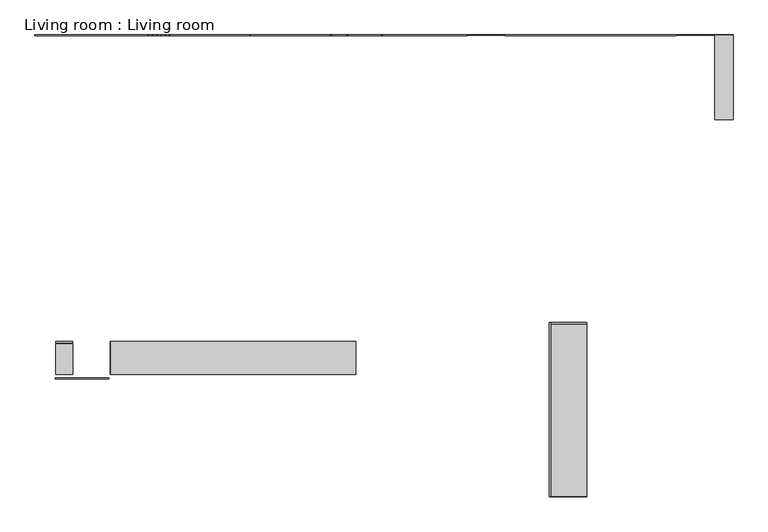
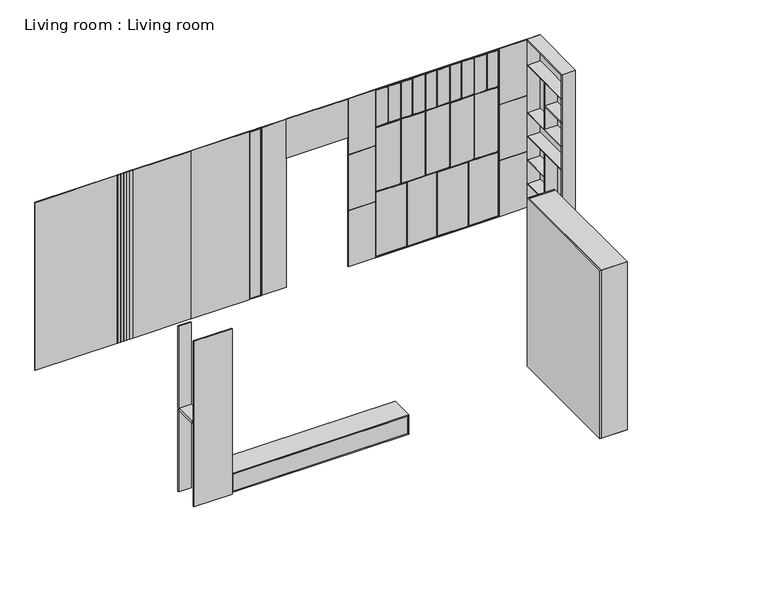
"""IFC4 building model written with IfcOpenShell, lengths in millimetres: proxy geometry, Living room : Living room."""

from ifc_helpers import new_model, si_unit, frame, origin, origin_with_axes, place, context, project, spatial, polyline, outline, extrude, faceted_brep, source, transform, mapped, element, save


def living_room_living_room_9fcb9abf(model_context):
    return source(origin(), model_context, "Body", "SolidModel", [
        extrude(outline(polyline([(16.6989013, -2202.1687653), (16.6989013, -4052.1687653), (-3.3010987, -4052.1687653), (-3.3010987, -2202.1687653), (16.6989013, -2202.1687653)])), origin_with_axes(), (0.0, 0.0, 1.0), 2600.0),
        extrude(outline(polyline([(-4635.3010987, -2732.1687653), (-2071.3010987, -2732.1687653), (-2071.3010987, -2752.1687653), (-4635.3010987, -2752.1687653), (-4635.3010987, -2732.1687653)])), frame((0.0, 0.0, 18.0), z_axis=(0.0, 0.0, 1.0), x_axis=(1.0, 0.0, 0.0)), (0.0, 0.0, 1.0), 264.0),
        faceted_brep([(-453.3010987, 840.8312347, 1005.0), (-453.3010987, 840.8312347, 15.0), (-18.3010987, 840.8312347, 15.0), (-18.3010987, 840.8312347, 1005.0), (-458.3010987, 844.8312347, 1010.0), (-13.3010987, 844.8312347, 1010.0), (-13.3010987, 844.8312347, 10.0), (-458.3010987, 844.8312347, 10.0)], [[[0, 1, 2, 3]], [[4, 5, 6, 7]], [[5, 4, 0, 3]], [[6, 5, 3, 2]], [[7, 6, 2, 1]], [[4, 7, 1, 0]]]),
        faceted_brep([(-3.3010987, 840.8312347, 1005.0), (-3.3010987, 840.8312347, 15.0), (431.6989013, 840.8312347, 15.0), (431.6989013, 840.8312347, 1005.0), (-8.3010987, 844.8312347, 1010.0), (436.6989013, 844.8312347, 1010.0), (436.6989013, 844.8312347, 10.0), (-8.3010987, 844.8312347, 10.0)], [[[0, 1, 2, 3]], [[4, 5, 6, 7]], [[5, 4, 0, 3]], [[6, 5, 3, 2]], [[7, 6, 2, 1]], [[4, 7, 1, 0]]]),
        faceted_brep([(896.6989013, 840.8312347, 1005.0), (896.6989013, 840.8312347, 15.0), (1331.6989013, 840.8312347, 15.0), (1331.6989013, 840.8312347, 1005.0), (891.6989013, 844.8312347, 1010.0), (1336.6989013, 844.8312347, 1010.0), (1336.6989013, 844.8312347, 10.0), (891.6989013, 844.8312347, 10.0)], [[[0, 1, 2, 3]], [[4, 5, 6, 7]], [[5, 4, 0, 3]], [[6, 5, 3, 2]], [[7, 6, 2, 1]], [[4, 7, 1, 0]]]),
        faceted_brep([(446.6989013, 840.8312347, 1005.0), (446.6989013, 840.8312347, 15.0), (881.6989013, 840.8312347, 15.0), (881.6989013, 840.8312347, 1005.0), (441.6989013, 844.8312347, 1010.0), (886.6989013, 844.8312347, 1010.0), (886.6989013, 844.8312347, 10.0), (441.6989013, 844.8312347, 10.0)], [[[0, 1, 2, 3]], [[4, 5, 6, 7]], [[5, 4, 0, 3]], [[6, 5, 3, 2]], [[7, 6, 2, 1]], [[4, 7, 1, 0]]]),
        extrude(outline(polyline([(-4248.3010987, 842.8312347), (-4253.3010987, 842.8312347), (-4253.3010987, 847.8312347), (-4248.3010987, 847.8312347), (-4248.3010987, 842.8312347)])), origin_with_axes(), (0.0, 0.0, 1.0), 2600.0),
        extrude(outline(polyline([(-4203.3010987, 842.8312347), (-4208.3010987, 842.8312347), (-4208.3010987, 847.8312347), (-4203.3010987, 847.8312347), (-4203.3010987, 842.8312347)])), origin_with_axes(), (0.0, 0.0, 1.0), 2600.0),
        extrude(outline(polyline([(-4158.3010987, 842.8312347), (-4163.3010987, 842.8312347), (-4163.3010987, 847.8312347), (-4158.3010987, 847.8312347), (-4158.3010987, 842.8312347)])), origin_with_axes(), (0.0, 0.0, 1.0), 2600.0),
        extrude(outline(polyline([(-4113.3010987, 842.8312347), (-4118.3010987, 842.8312347), (-4118.3010987, 847.8312347), (-4113.3010987, 847.8312347), (-4113.3010987, 842.8312347)])), origin_with_axes(), (0.0, 0.0, 1.0), 2600.0),
        extrude(outline(polyline([(-4068.3010987, 842.8312347), (-4073.3010987, 842.8312347), (-4073.3010987, 847.8312347), (-4068.3010987, 847.8312347), (-4068.3010987, 842.8312347)])), origin_with_axes(), (0.0, 0.0, 1.0), 2600.0),
        extrude(outline(polyline([(-4023.3010987, 842.8312347), (-4028.3010987, 842.8312347), (-4028.3010987, 847.8312347), (-4023.3010987, 847.8312347), (-4023.3010987, 842.8312347)])), origin_with_axes(), (0.0, 0.0, 1.0), 2600.0),
        extrude(outline(polyline([(-3168.3010987, 842.8312347), (-3173.3010987, 842.8312347), (-3173.3010987, 847.8312347), (-3168.3010987, 847.8312347), (-3168.3010987, 842.8312347)])), origin_with_axes(), (0.0, 0.0, 1.0), 2600.0),
        extrude(outline(polyline([(-2313.3010987, 842.8312347), (-2318.3010987, 842.8312347), (-2318.3010987, 847.8312347), (-2313.3010987, 847.8312347), (-2313.3010987, 842.8312347)])), origin_with_axes(), (0.0, 0.0, 1.0), 2600.0),
        extrude(outline(polyline([(-2138.3010987, 842.8312347), (-2143.3010987, 842.8312347), (-2143.3010987, 847.8312347), (-2138.3010987, 847.8312347), (-2138.3010987, 842.8312347)])), origin_with_axes(), (0.0, 0.0, 1.0), 2600.0),
        extrude(outline(polyline([(-1773.3010987, 842.8312347), (-1778.3010987, 842.8312347), (-1778.3010987, 847.8312347), (-1773.3010987, 847.8312347), (-1773.3010987, 842.8312347)])), frame((0.0, 0.0, 2000.0), z_axis=(0.0, 0.0, 1.0), x_axis=(1.0, 0.0, 0.0)), (0.0, 0.0, 1.0), 600.0),
        extrude(outline(polyline([(-868.3010987, 842.8312347), (-873.3010987, 842.8312347), (-873.3010987, 847.8312347), (-868.3010987, 847.8312347), (-868.3010987, 842.8312347)])), frame((0.0, 0.0, 2000.0), z_axis=(0.0, 0.0, 1.0), x_axis=(1.0, 0.0, 0.0)), (0.0, 0.0, 1.0), 600.0),
        extrude(outline(polyline([(-468.3010987, 842.8312347), (-868.3010987, 842.8312347), (-868.3010987, 847.8312347), (-468.3010987, 847.8312347), (-468.3010987, 842.8312347)])), frame((0.0, 0.0, 1728.3333333), z_axis=(0.0, 0.0, 1.0), x_axis=(1.0, 0.0, 0.0)), (0.0, 0.0, 1.0), 5.0),
        extrude(outline(polyline([(-468.3010987, 842.8312347), (-868.3010987, 842.8312347), (-868.3010987, 847.8312347), (-468.3010987, 847.8312347), (-468.3010987, 842.8312347)])), frame((0.0, 0.0, 861.6666667), z_axis=(0.0, 0.0, 1.0), x_axis=(1.0, 0.0, 0.0)), (0.0, 0.0, 1.0), 5.0),
        extrude(outline(polyline([(1746.6989013, 842.8312347), (1346.6989013, 842.8312347), (1346.6989013, 847.8312347), (1746.6989013, 847.8312347), (1746.6989013, 842.8312347)])), frame((0.0, 0.0, 861.6666667), z_axis=(0.0, 0.0, 1.0), x_axis=(1.0, 0.0, 0.0)), (0.0, 0.0, 1.0), 5.0),
        extrude(outline(polyline([(1746.6989013, 842.8312347), (1346.6989013, 842.8312347), (1346.6989013, 847.8312347), (1746.6989013, 847.8312347), (1746.6989013, 842.8312347)])), frame((0.0, 0.0, 1728.3333333), z_axis=(0.0, 0.0, 1.0), x_axis=(1.0, 0.0, 0.0)), (0.0, 0.0, 1.0), 5.0),
        extrude(outline(polyline([(-3279.6687653, 1964.0), (-3259.6687653, 1944.0), (-3259.6687653, 1641.0), (-3279.6687653, 1641.0), (-3279.6687653, 1964.0)])), frame((366.6989013, 0.0, 0.0), z_axis=(1.0, 0.0, 0.0), x_axis=(0.0, 1.0, 0.0)), (0.0, 0.0, 1.0), 10.0),
        extrude(outline(polyline([(-3284.6687653, 1641.0), (-3304.6687653, 1641.0), (-3304.6687653, 1944.0), (-3284.6687653, 1964.0), (-3284.6687653, 1641.0)])), frame((366.6989013, 0.0, 0.0), z_axis=(1.0, 0.0, 0.0), x_axis=(0.0, 1.0, 0.0)), (0.0, 0.0, 1.0), 10.0),
        extrude(outline(polyline([(-3231.6687653, 1019.0), (-3479.6687653, 1019.0), (-3479.6687653, 1039.0), (-3211.6687653, 1039.0), (-3231.6687653, 1019.0)])), frame((366.6989013, 0.0, 0.0), z_axis=(1.0, 0.0, 0.0), x_axis=(0.0, 1.0, 0.0)), (0.0, 0.0, 1.0), 10.0),
        extrude(outline(polyline([(-3729.3743928, 1019.0), (-3749.3743928, 1039.0), (-3484.6687653, 1039.0), (-3484.6687653, 1019.0), (-3729.3743928, 1019.0)])), frame((366.6989013, 0.0, 0.0), z_axis=(1.0, 0.0, 0.0), x_axis=(0.0, 1.0, 0.0)), (0.0, 0.0, 1.0), 10.0),
        extrude(outline(polyline([(-3653.1687653, 1640.1464466), (-3653.1687653, 1061.0), (-3673.1687653, 1061.0), (-3673.1687653, 1620.1464466), (-3653.1687653, 1640.1464466)])), frame((366.6989013, 0.0, 0.0), z_axis=(1.0, 0.0, 0.0), x_axis=(0.0, 1.0, 0.0)), (0.0, 0.0, 1.0), 10.0),
        extrude(outline(polyline([(-2911.1687653, 2181.0), (-2911.1687653, 2201.0), (-2586.1687653, 2201.0), (-2566.1687653, 2181.0), (-2911.1687653, 2181.0)])), frame((366.6989013, 0.0, 0.0), z_axis=(1.0, 0.0, 0.0), x_axis=(0.0, 1.0, 0.0)), (0.0, 0.0, 1.0), 10.0),
        extrude(outline(polyline([(-3484.6687653, 241.0), (-4031.1687653, 241.0), (-4031.1687653, 1039.0), (-3749.3743928, 1039.0), (-3729.3743928, 1019.0), (-3484.6687653, 1019.0), (-3484.6687653, 241.0)])), frame((376.6989013, 0.0, 0.0), z_axis=(1.0, 0.0, 0.0), x_axis=(0.0, 1.0, 0.0)), (0.0, 0.0, 1.0), 20.0),
        extrude(outline(polyline([(-3211.6687653, 1039.0), (-2933.1687653, 1039.0), (-2933.1687653, 241.0), (-3479.6687653, 241.0), (-3479.6687653, 1019.0), (-3231.6687653, 1019.0), (-3211.6687653, 1039.0)])), frame((376.6989013, 0.0, 0.0), z_axis=(1.0, 0.0, 0.0), x_axis=(0.0, 1.0, 0.0)), (0.0, 0.0, 1.0), 20.0),
        extrude(outline(polyline([(-3284.6687653, 2579.0), (-3284.6687653, 1964.0), (-3304.6687653, 1944.0), (-3304.6687653, 1641.0), (-3631.1687653, 1641.0), (-3631.1687653, 2579.0), (-3284.6687653, 2579.0)])), frame((376.6989013, 0.0, 0.0), z_axis=(1.0, 0.0, 0.0), x_axis=(0.0, 1.0, 0.0)), (0.0, 0.0, 1.0), 20.0),
        extrude(outline(polyline([(-3259.6687653, 1641.0), (-3259.6687653, 1944.0), (-3279.6687653, 1964.0), (-3279.6687653, 2579.0), (-2933.1687653, 2579.0), (-2933.1687653, 1641.0), (-3259.6687653, 1641.0)])), frame((376.6989013, 0.0, 0.0), z_axis=(1.0, 0.0, 0.0), x_axis=(0.0, 1.0, 0.0)), (0.0, 0.0, 1.0), 20.0),
        extrude(outline(polyline([(-3653.1687653, 2579.2928932), (-3653.1687653, 1640.1464466), (-3673.1687653, 1620.1464466), (-3673.1687653, 1061.0), (-4031.1687653, 1061.0), (-4031.1687653, 2579.2928932), (-3653.1687653, 2579.2928932)])), frame((376.6989013, 0.0, 0.0), z_axis=(1.0, 0.0, 0.0), x_axis=(0.0, 1.0, 0.0)), (0.0, 0.0, 1.0), 20.0),
        extrude(outline(polyline([(-2222.1687653, 2579.0), (-2222.1687653, 2181.0), (-2566.1687653, 2181.0), (-2586.1687653, 2201.0), (-2911.1687653, 2201.0), (-2911.1687653, 2579.0), (-2222.1687653, 2579.0)])), frame((376.6989013, 0.0, 0.0), z_axis=(1.0, 0.0, 0.0), x_axis=(0.0, 1.0, 0.0)), (0.0, 0.0, 1.0), 20.0),
        extrude(outline(polyline([(-2222.8758721, 0.0), (-4051.4616585, 0.0), (-4031.4616585, 20.0), (-2222.8758721, 20.0), (-2202.8758721, 0.0), (-2222.8758721, 0.0)])), frame((16.6989013, 0.0, 0.0), z_axis=(1.0, 0.0, 0.0), x_axis=(0.0, 1.0, 0.0)), (0.0, 0.0, 1.0), 380.0),
        extrude(outline(polyline([(-2202.1687653, 0.7071068), (-2222.1687653, 20.7071068), (-2222.1687653, 2579.2928932), (-2202.1687653, 2599.2928932), (-2202.1687653, 0.7071068)])), frame((16.6989013, 0.0, 0.0), z_axis=(1.0, 0.0, 0.0), x_axis=(0.0, 1.0, 0.0)), (0.0, 0.0, 1.0), 380.0),
        extrude(outline(polyline([(-4052.1687653, 0.7071068), (-4052.1687653, 2599.2928932), (-4032.1687653, 2579.2928932), (-4032.1687653, 20.7071068), (-4052.1687653, 0.7071068)])), frame((16.6989013, 0.0, 0.0), z_axis=(1.0, 0.0, 0.0), x_axis=(0.0, 1.0, 0.0)), (0.0, 0.0, 1.0), 380.0),
        extrude(outline(polyline([(-2222.8758721, 2600.0), (-2202.8758721, 2600.0), (-2222.8758721, 2580.0), (-4031.4616585, 2580.0), (-4051.4616585, 2600.0), (-2222.8758721, 2600.0)])), frame((16.6989013, 0.0, 0.0), z_axis=(1.0, 0.0, 0.0), x_axis=(0.0, 1.0, 0.0)), (0.0, 0.0, 1.0), 380.0),
        extrude(outline(polyline([(396.6989013, -2912.1687653), (396.6989013, -2932.1687653), (16.6989013, -2932.1687653), (16.6989013, -2912.1687653), (396.6989013, -2912.1687653)])), frame((0.0, 0.0, 21.0), z_axis=(0.0, 0.0, 1.0), x_axis=(1.0, 0.0, 0.0)), (0.0, 0.0, 1.0), 2558.0),
        extrude(outline(polyline([(396.6989013, -2933.1687653), (396.6989013, -4031.1687653), (16.6989013, -4031.1687653), (16.6989013, -2933.1687653), (396.6989013, -2933.1687653)])), frame((0.0, 0.0, 1040.0), z_axis=(0.0, 0.0, 1.0), x_axis=(1.0, 0.0, 0.0)), (0.0, 0.0, 1.0), 20.0),
        extrude(outline(polyline([(396.6989013, -2933.1687653), (396.6989013, -4031.1687653), (16.6989013, -4031.1687653), (16.6989013, -2933.1687653), (396.6989013, -2933.1687653)])), frame((0.0, 0.0, 220.0), z_axis=(0.0, 0.0, 1.0), x_axis=(1.0, 0.0, 0.0)), (0.0, 0.0, 1.0), 20.0),
        extrude(outline(polyline([(396.6989013, -2223.1687653), (396.6989013, -2911.1687653), (16.6989013, -2911.1687653), (16.6989013, -2223.1687653), (396.6989013, -2223.1687653)])), frame((0.0, 0.0, 220.0), z_axis=(0.0, 0.0, 1.0), x_axis=(1.0, 0.0, 0.0)), (0.0, 0.0, 1.0), 20.0),
        extrude(outline(polyline([(396.6989013, -2223.1687653), (396.6989013, -2911.1687653), (16.6989013, -2911.1687653), (16.6989013, -2223.1687653), (396.6989013, -2223.1687653)])), frame((0.0, 0.0, 440.0), z_axis=(0.0, 0.0, 1.0), x_axis=(1.0, 0.0, 0.0)), (0.0, 0.0, 1.0), 20.0),
        extrude(outline(polyline([(396.6989013, -2223.1687653), (396.6989013, -2911.1687653), (16.6989013, -2911.1687653), (16.6989013, -2223.1687653), (396.6989013, -2223.1687653)])), frame((0.0, 0.0, 2160.0), z_axis=(0.0, 0.0, 1.0), x_axis=(1.0, 0.0, 0.0)), (0.0, 0.0, 1.0), 20.0),
        extrude(outline(polyline([(396.6989013, -2933.1687653), (396.6989013, -3631.1687653), (16.6989013, -3631.1687653), (16.6989013, -2933.1687653), (396.6989013, -2933.1687653)])), frame((0.0, 0.0, 1620.0), z_axis=(0.0, 0.0, 1.0), x_axis=(1.0, 0.0, 0.0)), (0.0, 0.0, 1.0), 20.0),
        extrude(outline(polyline([(396.6989013, -2933.1687653), (396.6989013, -3630.1687653), (16.6989013, -3630.1687653), (16.6989013, -2933.1687653), (396.6989013, -2933.1687653)])), frame((0.0, 0.0, 1330.0), z_axis=(0.0, 0.0, 1.0), x_axis=(1.0, 0.0, 0.0)), (0.0, 0.0, 1.0), 20.0),
        extrude(outline(polyline([(396.6989013, -3632.1687653), (396.6989013, -3652.1687653), (16.6989013, -3652.1687653), (16.6989013, -3632.1687653), (396.6989013, -3632.1687653)])), frame((0.0, 0.0, 1061.0), z_axis=(0.0, 0.0, 1.0), x_axis=(1.0, 0.0, 0.0)), (0.0, 0.0, 1.0), 1518.0),
        faceted_brep([(1751.6989013, 847.8312347, 2599.2928932), (1751.6989013, 847.8312347, 0.7071068), (1751.6989013, 827.8312347, 20.7071068), (1751.6989013, 827.8312347, 2579.2928932), (1751.6989013, -51.4616585, 0.0), (1751.6989013, -31.4616585, 20.0), (1751.6989013, 827.1241279, 20.0), (1751.6989013, 847.1241279, 0.0), (1751.6989013, -32.1687653, 20.7071068), (1751.6989013, -52.1687653, 0.7071068), (1751.6989013, -52.1687653, 2599.2928932), (1751.6989013, -32.1687653, 2579.2928932), (1751.6989013, -51.4616585, 2600.0), (1751.6989013, 847.1241279, 2600.0), (1751.6989013, 827.1241279, 2580.0), (1751.6989013, -31.4616585, 2580.0), (1751.6989013, -31.1687653, 2212.8571429), (1751.6989013, 826.8312347, 2212.8571429), (1751.6989013, 826.8312347, 2202.8571429), (1751.6989013, -31.1687653, 2202.8571429), (1751.6989013, -31.1687653, 1845.7142857), (1751.6989013, 391.8312347, 1845.7142857), (1751.6989013, 391.8312347, 1835.7142857), (1751.6989013, -31.1687653, 1835.7142857), (1751.6989013, -31.1687653, 1478.5714286), (1751.6989013, 826.8312347, 1478.5714286), (1751.6989013, 826.8312347, 1468.5714286), (1751.6989013, -31.1687653, 1468.5714286), (1751.6989013, -31.1687653, 1111.4285714), (1751.6989013, 826.8312347, 1111.4285714), (1751.6989013, 826.8312347, 1101.4285714), (1751.6989013, -31.1687653, 1101.4285714), (1751.6989013, 826.8312347, 744.2857143), (1751.6989013, 826.8312347, 734.2857143), (1751.6989013, 403.8312347, 734.2857143), (1751.6989013, 403.8312347, 744.2857143), (1751.6989013, -31.1687653, 377.1428571), (1751.6989013, 826.8312347, 377.1428571), (1751.6989013, 826.8312347, 367.1428571), (1751.6989013, -31.1687653, 367.1428571), (1751.6989013, 402.8312347, 2201.8571429), (1751.6989013, 402.8312347, 1479.5714286), (1751.6989013, 392.8312347, 1479.5714286), (1751.6989013, 392.8312347, 2201.8571429), (1751.6989013, 402.8312347, 1100.4285714), (1751.6989013, 402.8312347, 378.1428571), (1751.6989013, 392.8312347, 378.1428571), (1751.6989013, 392.8312347, 1100.4285714), (1946.6989013, 847.8312347, 2599.2928932), (1946.6989013, 827.8312347, 2579.2928932), (1946.6989013, 827.8312347, 2580.0), (1946.6989013, 827.1241279, 2580.0), (1946.6989013, 847.1241279, 2600.0), (1946.6989013, -51.4616585, 2600.0), (1946.6989013, -31.4616585, 2580.0), (1946.6989013, -32.1687653, 2580.0), (1946.6989013, -32.1687653, 2579.2928932), (1946.6989013, -52.1687653, 2599.2928932), (1946.6989013, -52.1687653, 0.7071068), (1946.6989013, -32.1687653, 20.7071068), (1946.6989013, -32.1687653, 19.2928932), (1946.6989013, -51.4616585, 0.0), (1946.6989013, 847.1241279, 0.0), (1946.6989013, 827.8312347, 19.2928932), (1946.6989013, 827.8312347, 20.7071068), (1946.6989013, 847.8312347, 0.7071068), (1936.6989013, 827.8312347, 20.7071068), (1936.6989013, 827.8312347, 2579.2928932), (1936.6989013, -32.1687653, 19.2928932), (1936.6989013, -31.4616585, 20.0), (1936.6989013, 827.1241279, 20.0), (1936.6989013, 827.8312347, 19.2928932), (1936.6989013, -32.1687653, 20.7071068), (1936.6989013, -32.1687653, 2579.2928932), (1936.6989013, 827.1241279, 2580.0), (1936.6989013, -31.4616585, 2580.0), (1936.6989013, -31.1687653, 2212.8571429), (1936.6989013, 826.8312347, 2212.8571429), (1936.6989013, 826.8312347, 2202.8571429), (1936.6989013, -31.1687653, 2202.8571429), (1936.6989013, -31.1687653, 1845.7142857), (1936.6989013, 391.8312347, 1845.7142857), (1936.6989013, 391.8312347, 1835.7142857), (1936.6989013, -31.1687653, 1835.7142857), (1936.6989013, -31.1687653, 1478.5714286), (1936.6989013, 826.8312347, 1478.5714286), (1936.6989013, 826.8312347, 1468.5714286), (1936.6989013, -31.1687653, 1468.5714286), (1936.6989013, -31.1687653, 1111.4285714), (1936.6989013, 826.8312347, 1111.4285714), (1936.6989013, 826.8312347, 1101.4285714), (1936.6989013, -31.1687653, 1101.4285714), (1936.6989013, 826.8312347, 744.2857143), (1936.6989013, 826.8312347, 734.2857143), (1936.6989013, 403.8312347, 734.2857143), (1936.6989013, 403.8312347, 744.2857143), (1936.6989013, -31.1687653, 377.1428571), (1936.6989013, 826.8312347, 377.1428571), (1936.6989013, 826.8312347, 367.1428571), (1936.6989013, -31.1687653, 367.1428571), (1936.6989013, 402.8312347, 2201.8571429), (1936.6989013, 402.8312347, 1479.5714286), (1936.6989013, 392.8312347, 1479.5714286), (1936.6989013, 392.8312347, 2201.8571429), (1936.6989013, 402.8312347, 1100.4285714), (1936.6989013, 402.8312347, 378.1428571), (1936.6989013, 392.8312347, 378.1428571), (1936.6989013, 392.8312347, 1100.4285714), (1936.6989013, 827.8312347, 2580.0), (1936.6989013, -32.1687653, 2580.0)], [[[0, 1, 2, 3]], [[4, 5, 6, 7]], [[8, 9, 10, 11]], [[12, 13, 14, 15]], [[16, 17, 18, 19]], [[20, 21, 22, 23]], [[24, 25, 26, 27]], [[28, 29, 30, 31]], [[32, 33, 34, 35]], [[36, 37, 38, 39]], [[40, 41, 42, 43]], [[44, 45, 46, 47]], [[48, 49, 50, 51, 52, 53, 54, 55, 56, 57, 58, 59, 60, 61, 62, 63, 64, 65]], [[1, 0, 48, 65]], [[2, 1, 65, 64, 66]], [[3, 2, 66, 67]], [[0, 3, 67, 49, 48]], [[5, 4, 61, 60, 68, 69]], [[6, 5, 69, 70]], [[7, 6, 70, 71, 63, 62]], [[4, 7, 62, 61]], [[9, 8, 72, 59, 58]], [[10, 9, 58, 57]], [[11, 10, 57, 56, 73]], [[8, 11, 73, 72]], [[13, 12, 53, 52]], [[14, 13, 52, 51, 74]], [[15, 14, 74, 75]], [[12, 15, 75, 54, 53]], [[17, 16, 76, 77]], [[18, 17, 77, 78]], [[19, 18, 78, 79]], [[16, 19, 79, 76]], [[21, 20, 80, 81]], [[22, 21, 81, 82]], [[23, 22, 82, 83]], [[20, 23, 83, 80]], [[25, 24, 84, 85]], [[26, 25, 85, 86]], [[27, 26, 86, 87]], [[24, 27, 87, 84]], [[29, 28, 88, 89]], [[30, 29, 89, 90]], [[31, 30, 90, 91]], [[28, 31, 91, 88]], [[33, 32, 92, 93]], [[34, 33, 93, 94]], [[35, 34, 94, 95]], [[32, 35, 95, 92]], [[37, 36, 96, 97]], [[38, 37, 97, 98]], [[39, 38, 98, 99]], [[36, 39, 99, 96]], [[41, 40, 100, 101]], [[42, 41, 101, 102]], [[43, 42, 102, 103]], [[40, 43, 103, 100]], [[45, 44, 104, 105]], [[46, 45, 105, 106]], [[47, 46, 106, 107]], [[44, 47, 107, 104]], [[108, 67, 66, 71, 70, 69, 68, 72, 73, 109, 75, 74], [77, 76, 79, 78], [81, 80, 83, 82], [85, 84, 87, 86], [89, 88, 91, 90], [93, 92, 95, 94], [97, 96, 99, 98], [101, 100, 103, 102], [105, 104, 107, 106]], [[108, 50, 49, 67]], [[64, 63, 71, 66]], [[55, 109, 73, 56]], [[60, 59, 72, 68]], [[50, 108, 74, 51]], [[109, 55, 54, 75]]]),
        extrude(outline(polyline([(-283.3010987, 847.8312347), (-283.3010987, 844.8312347), (-458.3010987, 844.8312347), (-458.3010987, 847.8312347), (-283.3010987, 847.8312347)])), frame((0.0, 0.0, 2020.0), z_axis=(0.0, 0.0, 1.0), x_axis=(1.0, 0.0, 0.0)), (0.0, 0.0, 1.0), 570.0),
        extrude(outline(polyline([(1161.6989013, 844.8312347), (1161.6989013, 847.8312347), (1336.6989013, 847.8312347), (1336.6989013, 844.8312347), (1161.6989013, 844.8312347)])), frame((0.0, 0.0, 2020.0), z_axis=(0.0, 0.0, 1.0), x_axis=(1.0, 0.0, 0.0)), (0.0, 0.0, 1.0), 570.0),
        extrude(outline(polyline([(1156.6989013, 847.8312347), (1156.6989013, 844.8312347), (981.6989013, 844.8312347), (981.6989013, 847.8312347), (1156.6989013, 847.8312347)])), frame((0.0, 0.0, 2020.0), z_axis=(0.0, 0.0, 1.0), x_axis=(1.0, 0.0, 0.0)), (0.0, 0.0, 1.0), 570.0),
        extrude(outline(polyline([(976.6989013, 847.8312347), (976.6989013, 844.8312347), (801.6989013, 844.8312347), (801.6989013, 847.8312347), (976.6989013, 847.8312347)])), frame((0.0, 0.0, 2020.0), z_axis=(0.0, 0.0, 1.0), x_axis=(1.0, 0.0, 0.0)), (0.0, 0.0, 1.0), 570.0),
        extrude(outline(polyline([(796.6989013, 847.8312347), (796.6989013, 844.8312347), (621.6989013, 844.8312347), (621.6989013, 847.8312347), (796.6989013, 847.8312347)])), frame((0.0, 0.0, 2020.0), z_axis=(0.0, 0.0, 1.0), x_axis=(1.0, 0.0, 0.0)), (0.0, 0.0, 1.0), 570.0),
        extrude(outline(polyline([(616.6989013, 847.8312347), (616.6989013, 844.8312347), (441.6989013, 844.8312347), (441.6989013, 847.8312347), (616.6989013, 847.8312347)])), frame((0.0, 0.0, 2020.0), z_axis=(0.0, 0.0, 1.0), x_axis=(1.0, 0.0, 0.0)), (0.0, 0.0, 1.0), 570.0),
        extrude(outline(polyline([(436.6989013, 847.8312347), (436.6989013, 844.8312347), (261.6989013, 844.8312347), (261.6989013, 847.8312347), (436.6989013, 847.8312347)])), frame((0.0, 0.0, 2020.0), z_axis=(0.0, 0.0, 1.0), x_axis=(1.0, 0.0, 0.0)), (0.0, 0.0, 1.0), 570.0),
        extrude(outline(polyline([(256.6989013, 847.8312347), (256.6989013, 844.8312347), (81.6989013, 844.8312347), (81.6989013, 847.8312347), (256.6989013, 847.8312347)])), frame((0.0, 0.0, 2020.0), z_axis=(0.0, 0.0, 1.0), x_axis=(1.0, 0.0, 0.0)), (0.0, 0.0, 1.0), 570.0),
        extrude(outline(polyline([(76.6989013, 847.8312347), (76.6989013, 844.8312347), (-98.3010987, 844.8312347), (-98.3010987, 847.8312347), (76.6989013, 847.8312347)])), frame((0.0, 0.0, 2020.0), z_axis=(0.0, 0.0, 1.0), x_axis=(1.0, 0.0, 0.0)), (0.0, 0.0, 1.0), 570.0),
        extrude(outline(polyline([(-103.3010987, 847.8312347), (-103.3010987, 844.8312347), (-278.3010987, 844.8312347), (-278.3010987, 847.8312347), (-103.3010987, 847.8312347)])), frame((0.0, 0.0, 2020.0), z_axis=(0.0, 0.0, 1.0), x_axis=(1.0, 0.0, 0.0)), (0.0, 0.0, 1.0), 570.0),
        extrude(outline(polyline([(0.0, -458.3010987), (0.0, 1336.6989013), (1010.0, 1336.6989013), (1010.0, 891.6989013), (10.0, 891.6989013), (10.0, 886.6989013), (1010.0, 886.6989013), (1010.0, 441.6989013), (10.0, 441.6989013), (10.0, 436.6989013), (1010.0, 436.6989013), (1010.0, -8.3010987), (10.0, -8.3010987), (10.0, -13.3010987), (1010.0, -13.3010987), (1010.0, -458.3010987), (0.0, -458.3010987)])), frame((0.0, 844.8312347, 0.0), z_axis=(0.0, 1.0, 0.0), x_axis=(0.0, 0.0, 1.0)), (0.0, 0.0, 1.0), 3.0),
        extrude(outline(polyline([(-103.3010987, 847.8312347), (-103.3010987, 844.8312347), (-458.3010987, 844.8312347), (-458.3010987, 847.8312347), (-103.3010987, 847.8312347)])), frame((0.0, 0.0, 1015.0), z_axis=(0.0, 0.0, 1.0), x_axis=(1.0, 0.0, 0.0)), (0.0, 0.0, 1.0), 1000.0),
        extrude(outline(polyline([(981.6989013, 844.8312347), (981.6989013, 847.8312347), (1336.6989013, 847.8312347), (1336.6989013, 844.8312347), (981.6989013, 844.8312347)])), frame((0.0, 0.0, 1015.0), z_axis=(0.0, 0.0, 1.0), x_axis=(1.0, 0.0, 0.0)), (0.0, 0.0, 1.0), 1000.0),
        extrude(outline(polyline([(621.6989013, 844.8312347), (621.6989013, 847.8312347), (976.6989013, 847.8312347), (976.6989013, 844.8312347), (621.6989013, 844.8312347)])), frame((0.0, 0.0, 1015.0), z_axis=(0.0, 0.0, 1.0), x_axis=(1.0, 0.0, 0.0)), (0.0, 0.0, 1.0), 1000.0),
        extrude(outline(polyline([(261.6989013, 844.8312347), (261.6989013, 847.8312347), (616.6989013, 847.8312347), (616.6989013, 844.8312347), (261.6989013, 844.8312347)])), frame((0.0, 0.0, 1015.0), z_axis=(0.0, 0.0, 1.0), x_axis=(1.0, 0.0, 0.0)), (0.0, 0.0, 1.0), 1000.0),
        extrude(outline(polyline([(-98.3010987, 844.8312347), (-98.3010987, 847.8312347), (256.6989013, 847.8312347), (256.6989013, 844.8312347), (-98.3010987, 844.8312347)])), frame((0.0, 0.0, 1015.0), z_axis=(0.0, 0.0, 1.0), x_axis=(1.0, 0.0, 0.0)), (0.0, 0.0, 1.0), 1000.0),
        extrude(outline(polyline([(2020.0, -283.3010987), (2020.0, -458.3010987), (2015.0, -458.3010987), (2015.0, -103.3010987), (1015.0, -103.3010987), (1015.0, -458.3010987), (1010.0, -458.3010987), (1010.0, -13.3010987), (10.0, -13.3010987), (10.0, -8.3010987), (1010.0, -8.3010987), (1010.0, 436.6989013), (10.0, 436.6989013), (10.0, 441.6989013), (1010.0, 441.6989013), (1010.0, 886.6989013), (10.0, 886.6989013), (10.0, 891.6989013), (1010.0, 891.6989013), (1010.0, 1336.6989013), (1015.0, 1336.6989013), (1015.0, 981.6989013), (2015.0, 981.6989013), (2015.0, 1336.6989013), (2020.0, 1336.6989013), (2020.0, 1161.6989013), (2590.0, 1161.6989013), (2590.0, 1156.6989013), (2020.0, 1156.6989013), (2020.0, 981.6989013), (2590.0, 981.6989013), (2590.0, 976.6989013), (2020.0, 976.6989013), (2020.0, 801.6989013), (2590.0, 801.6989013), (2590.0, 796.6989013), (2020.0, 796.6989013), (2020.0, 621.6989013), (2590.0, 621.6989013), (2590.0, 616.6989013), (2020.0, 616.6989013), (2020.0, 441.6989013), (2590.0, 441.6989013), (2590.0, 436.6989013), (2020.0, 436.6989013), (2020.0, 261.6989013), (2590.0, 261.6989013), (2590.0, 256.6989013), (2020.0, 256.6989013), (2020.0, 81.6989013), (2590.0, 81.6989013), (2590.0, 76.6989013), (2020.0, 76.6989013), (2020.0, -98.3010987), (2590.0, -98.3010987), (2590.0, -103.3010987), (2020.0, -103.3010987), (2020.0, -278.3010987), (2590.0, -278.3010987), (2590.0, -283.3010987), (2020.0, -283.3010987)]), holes=[polyline([(1015.0, 976.6989013), (1015.0, 621.6989013), (2015.0, 621.6989013), (2015.0, 976.6989013), (1015.0, 976.6989013)]), polyline([(1015.0, 616.6989013), (1015.0, 261.6989013), (2015.0, 261.6989013), (2015.0, 616.6989013), (1015.0, 616.6989013)]), polyline([(1015.0, 256.6989013), (1015.0, -98.3010987), (2015.0, -98.3010987), (2015.0, 256.6989013), (1015.0, 256.6989013)])]), frame((0.0, 844.8312347, 0.0), z_axis=(0.0, 1.0, 0.0), x_axis=(0.0, 0.0, 1.0)), (0.0, 0.0, 1.0), 3.0),
        faceted_brep([(-108.3010987, 840.8312347, 2025.0), (-108.3010987, 840.8312347, 2585.0), (-273.3010987, 840.8312347, 2585.0), (-273.3010987, 840.8312347, 2025.0), (-103.3010987, 844.8312347, 2020.0), (-278.3010987, 844.8312347, 2020.0), (-278.3010987, 844.8312347, 2590.0), (-103.3010987, 844.8312347, 2590.0)], [[[0, 1, 2, 3]], [[4, 5, 6, 7]], [[4, 7, 1, 0]], [[7, 6, 2, 1]], [[6, 5, 3, 2]], [[5, 4, 0, 3]]]),
        faceted_brep([(-288.3010987, 840.8312347, 2025.0), (-288.3010987, 840.8312347, 2585.0), (-453.3010987, 840.8312347, 2585.0), (-453.3010987, 840.8312347, 2025.0), (-283.3010987, 844.8312347, 2020.0), (-458.3010987, 844.8312347, 2020.0), (-458.3010987, 844.8312347, 2590.0), (-283.3010987, 844.8312347, 2590.0)], [[[0, 1, 2, 3]], [[4, 5, 6, 7]], [[4, 7, 1, 0]], [[7, 6, 2, 1]], [[6, 5, 3, 2]], [[5, 4, 0, 3]]]),
        faceted_brep([(1331.6989013, 840.8312347, 2025.0), (1331.6989013, 840.8312347, 2585.0), (1166.6989013, 840.8312347, 2585.0), (1166.6989013, 840.8312347, 2025.0), (1336.6989013, 844.8312347, 2020.0), (1161.6989013, 844.8312347, 2020.0), (1161.6989013, 844.8312347, 2590.0), (1336.6989013, 844.8312347, 2590.0)], [[[0, 1, 2, 3]], [[4, 5, 6, 7]], [[4, 7, 1, 0]], [[7, 6, 2, 1]], [[6, 5, 3, 2]], [[5, 4, 0, 3]]]),
        faceted_brep([(1151.6989013, 840.8312347, 2025.0), (1151.6989013, 840.8312347, 2585.0), (986.6989013, 840.8312347, 2585.0), (986.6989013, 840.8312347, 2025.0), (1156.6989013, 844.8312347, 2020.0), (981.6989013, 844.8312347, 2020.0), (981.6989013, 844.8312347, 2590.0), (1156.6989013, 844.8312347, 2590.0)], [[[0, 1, 2, 3]], [[4, 5, 6, 7]], [[4, 7, 1, 0]], [[7, 6, 2, 1]], [[6, 5, 3, 2]], [[5, 4, 0, 3]]]),
        faceted_brep([(971.6989013, 840.8312347, 2025.0), (971.6989013, 840.8312347, 2585.0), (806.6989013, 840.8312347, 2585.0), (806.6989013, 840.8312347, 2025.0), (976.6989013, 844.8312347, 2020.0), (801.6989013, 844.8312347, 2020.0), (801.6989013, 844.8312347, 2590.0), (976.6989013, 844.8312347, 2590.0)], [[[0, 1, 2, 3]], [[4, 5, 6, 7]], [[4, 7, 1, 0]], [[7, 6, 2, 1]], [[6, 5, 3, 2]], [[5, 4, 0, 3]]]),
        faceted_brep([(791.6989013, 840.8312347, 2025.0), (791.6989013, 840.8312347, 2585.0), (626.6989013, 840.8312347, 2585.0), (626.6989013, 840.8312347, 2025.0), (796.6989013, 844.8312347, 2020.0), (621.6989013, 844.8312347, 2020.0), (621.6989013, 844.8312347, 2590.0), (796.6989013, 844.8312347, 2590.0)], [[[0, 1, 2, 3]], [[4, 5, 6, 7]], [[4, 7, 1, 0]], [[7, 6, 2, 1]], [[6, 5, 3, 2]], [[5, 4, 0, 3]]]),
        faceted_brep([(611.6989013, 840.8312347, 2025.0), (611.6989013, 840.8312347, 2585.0), (446.6989013, 840.8312347, 2585.0), (446.6989013, 840.8312347, 2025.0), (616.6989013, 844.8312347, 2020.0), (441.6989013, 844.8312347, 2020.0), (441.6989013, 844.8312347, 2590.0), (616.6989013, 844.8312347, 2590.0)], [[[0, 1, 2, 3]], [[4, 5, 6, 7]], [[4, 7, 1, 0]], [[7, 6, 2, 1]], [[6, 5, 3, 2]], [[5, 4, 0, 3]]]),
        faceted_brep([(431.6989013, 840.8312347, 2025.0), (431.6989013, 840.8312347, 2585.0), (266.6989013, 840.8312347, 2585.0), (266.6989013, 840.8312347, 2025.0), (436.6989013, 844.8312347, 2020.0), (261.6989013, 844.8312347, 2020.0), (261.6989013, 844.8312347, 2590.0), (436.6989013, 844.8312347, 2590.0)], [[[0, 1, 2, 3]], [[4, 5, 6, 7]], [[4, 7, 1, 0]], [[7, 6, 2, 1]], [[6, 5, 3, 2]], [[5, 4, 0, 3]]]),
        faceted_brep([(251.6989013, 840.8312347, 2025.0), (251.6989013, 840.8312347, 2585.0), (86.6989013, 840.8312347, 2585.0), (86.6989013, 840.8312347, 2025.0), (256.6989013, 844.8312347, 2020.0), (81.6989013, 844.8312347, 2020.0), (81.6989013, 844.8312347, 2590.0), (256.6989013, 844.8312347, 2590.0)], [[[0, 1, 2, 3]], [[4, 5, 6, 7]], [[4, 7, 1, 0]], [[7, 6, 2, 1]], [[6, 5, 3, 2]], [[5, 4, 0, 3]]]),
        faceted_brep([(71.6989013, 840.8312347, 2025.0), (71.6989013, 840.8312347, 2585.0), (-93.3010987, 840.8312347, 2585.0), (-93.3010987, 840.8312347, 2025.0), (76.6989013, 844.8312347, 2020.0), (-98.3010987, 844.8312347, 2020.0), (-98.3010987, 844.8312347, 2590.0), (76.6989013, 844.8312347, 2590.0)], [[[0, 1, 2, 3]], [[4, 5, 6, 7]], [[4, 7, 1, 0]], [[7, 6, 2, 1]], [[6, 5, 3, 2]], [[5, 4, 0, 3]]]),
        faceted_brep([(-453.3010987, 840.8312347, 2010.0), (-453.3010987, 840.8312347, 1020.0), (-108.3010987, 840.8312347, 1020.0), (-108.3010987, 840.8312347, 2010.0), (-458.3010987, 844.8312347, 2015.0), (-103.3010987, 844.8312347, 2015.0), (-103.3010987, 844.8312347, 1015.0), (-458.3010987, 844.8312347, 1015.0)], [[[0, 1, 2, 3]], [[4, 5, 6, 7]], [[4, 7, 1, 0]], [[7, 6, 2, 1]], [[6, 5, 3, 2]], [[5, 4, 0, 3]]]),
        faceted_brep([(-93.3010987, 840.8312347, 2010.0), (-93.3010987, 840.8312347, 1020.0), (251.6989013, 840.8312347, 1020.0), (251.6989013, 840.8312347, 2010.0), (-98.3010987, 844.8312347, 2015.0), (256.6989013, 844.8312347, 2015.0), (256.6989013, 844.8312347, 1015.0), (-98.3010987, 844.8312347, 1015.0)], [[[0, 1, 2, 3]], [[4, 5, 6, 7]], [[4, 7, 1, 0]], [[7, 6, 2, 1]], [[6, 5, 3, 2]], [[5, 4, 0, 3]]]),
        faceted_brep([(266.6989013, 840.8312347, 2010.0), (266.6989013, 840.8312347, 1020.0), (611.6989013, 840.8312347, 1020.0), (611.6989013, 840.8312347, 2010.0), (261.6989013, 844.8312347, 2015.0), (616.6989013, 844.8312347, 2015.0), (616.6989013, 844.8312347, 1015.0), (261.6989013, 844.8312347, 1015.0)], [[[0, 1, 2, 3]], [[4, 5, 6, 7]], [[4, 7, 1, 0]], [[7, 6, 2, 1]], [[6, 5, 3, 2]], [[5, 4, 0, 3]]]),
        faceted_brep([(986.6989013, 840.8312347, 2010.0), (986.6989013, 840.8312347, 1020.0), (1331.6989013, 840.8312347, 1020.0), (1331.6989013, 840.8312347, 2010.0), (981.6989013, 844.8312347, 2015.0), (1336.6989013, 844.8312347, 2015.0), (1336.6989013, 844.8312347, 1015.0), (981.6989013, 844.8312347, 1015.0)], [[[0, 1, 2, 3]], [[4, 5, 6, 7]], [[4, 7, 1, 0]], [[7, 6, 2, 1]], [[6, 5, 3, 2]], [[5, 4, 0, 3]]]),
        faceted_brep([(626.6989013, 840.8312347, 2010.0), (626.6989013, 840.8312347, 1020.0), (971.6989013, 840.8312347, 1020.0), (971.6989013, 840.8312347, 2010.0), (621.6989013, 844.8312347, 2015.0), (976.6989013, 844.8312347, 2015.0), (976.6989013, 844.8312347, 1015.0), (621.6989013, 844.8312347, 1015.0)], [[[0, 1, 2, 3]], [[4, 5, 6, 7]], [[4, 7, 1, 0]], [[7, 6, 2, 1]], [[6, 5, 3, 2]], [[5, 4, 0, 3]]]),
        extrude(outline(polyline([(2600.0, -468.3010987), (0.0, -468.3010987), (0.0, 1346.6989013), (2600.0, 1346.6989013), (2600.0, -468.3010987)]), holes=[polyline([(2590.0, 1336.6989013), (10.0, 1336.6989013), (10.0, -458.3010987), (2590.0, -458.3010987), (2590.0, 1336.6989013)])]), frame((0.0, 837.8312347, 0.0), z_axis=(0.0, 1.0, 0.0), x_axis=(0.0, 0.0, 1.0)), (0.0, 0.0, 1.0), 10.0),
        extrude(outline(polyline([(-468.3010987, 842.8312347), (-868.3010987, 842.8312347), (-868.3010987, 847.8312347), (-468.3010987, 847.8312347), (-468.3010987, 842.8312347)])), frame((0.0, 0.0, 1733.3333333), z_axis=(0.0, 0.0, 1.0), x_axis=(1.0, 0.0, 0.0)), (0.0, 0.0, 1.0), 866.6666667),
        extrude(outline(polyline([(-468.3010987, 842.8312347), (-868.3010987, 842.8312347), (-868.3010987, 847.8312347), (-468.3010987, 847.8312347), (-468.3010987, 842.8312347)])), origin_with_axes(), (0.0, 0.0, 1.0), 861.6666667),
        extrude(outline(polyline([(1746.6989013, 842.8312347), (1346.6989013, 842.8312347), (1346.6989013, 847.8312347), (1746.6989013, 847.8312347), (1746.6989013, 842.8312347)])), frame((0.0, 0.0, 1733.3333333), z_axis=(0.0, 0.0, 1.0), x_axis=(1.0, 0.0, 0.0)), (0.0, 0.0, 1.0), 866.6666667),
        extrude(outline(polyline([(1746.6989013, 842.8312347), (1346.6989013, 842.8312347), (1346.6989013, 847.8312347), (1746.6989013, 847.8312347), (1746.6989013, 842.8312347)])), origin_with_axes(), (0.0, 0.0, 1.0), 861.6666667),
        extrude(outline(polyline([(-468.3010987, 842.8312347), (-868.3010987, 842.8312347), (-868.3010987, 847.8312347), (-468.3010987, 847.8312347), (-468.3010987, 842.8312347)])), frame((0.0, 0.0, 866.6666667), z_axis=(0.0, 0.0, 1.0), x_axis=(1.0, 0.0, 0.0)), (0.0, 0.0, 1.0), 861.6666667),
        extrude(outline(polyline([(1746.6989013, 842.8312347), (1346.6989013, 842.8312347), (1346.6989013, 847.8312347), (1746.6989013, 847.8312347), (1746.6989013, 842.8312347)])), frame((0.0, 0.0, 866.6666667), z_axis=(0.0, 0.0, 1.0), x_axis=(1.0, 0.0, 0.0)), (0.0, 0.0, 1.0), 861.6666667),
        extrude(outline(polyline([(-873.3010987, 837.8312347), (-1773.3010987, 837.8312347), (-1773.3010987, 847.8312347), (-873.3010987, 847.8312347), (-873.3010987, 837.8312347)])), frame((0.0, 0.0, 2000.0), z_axis=(0.0, 0.0, 1.0), x_axis=(1.0, 0.0, 0.0)), (0.0, 0.0, 1.0), 600.0),
        extrude(outline(polyline([(-4208.3010987, 847.8312347), (-4208.3010987, 837.8312347), (-4248.3010987, 837.8312347), (-4248.3010987, 847.8312347), (-4208.3010987, 847.8312347)])), origin_with_axes(), (0.0, 0.0, 1.0), 2600.0),
        extrude(outline(polyline([(-4163.3010987, 847.8312347), (-4163.3010987, 837.8312347), (-4203.3010987, 837.8312347), (-4203.3010987, 847.8312347), (-4163.3010987, 847.8312347)])), origin_with_axes(), (0.0, 0.0, 1.0), 2600.0),
        extrude(outline(polyline([(-4118.3010987, 847.8312347), (-4118.3010987, 837.8312347), (-4158.3010987, 837.8312347), (-4158.3010987, 847.8312347), (-4118.3010987, 847.8312347)])), origin_with_axes(), (0.0, 0.0, 1.0), 2600.0),
        extrude(outline(polyline([(-4073.3010987, 847.8312347), (-4073.3010987, 837.8312347), (-4113.3010987, 837.8312347), (-4113.3010987, 847.8312347), (-4073.3010987, 847.8312347)])), origin_with_axes(), (0.0, 0.0, 1.0), 2600.0),
        extrude(outline(polyline([(-4028.3010987, 847.8312347), (-4028.3010987, 837.8312347), (-4068.3010987, 837.8312347), (-4068.3010987, 847.8312347), (-4028.3010987, 847.8312347)])), origin_with_axes(), (0.0, 0.0, 1.0), 2600.0),
        extrude(outline(polyline([(-3173.3010987, 847.8312347), (-3173.3010987, 837.8312347), (-4023.3010987, 837.8312347), (-4023.3010987, 847.8312347), (-3173.3010987, 847.8312347)])), origin_with_axes(), (0.0, 0.0, 1.0), 2600.0),
        extrude(outline(polyline([(-2318.3010987, 847.8312347), (-2318.3010987, 837.8312347), (-3168.3010987, 837.8312347), (-3168.3010987, 847.8312347), (-2318.3010987, 847.8312347)])), origin_with_axes(), (0.0, 0.0, 1.0), 2600.0),
        extrude(outline(polyline([(-1778.3010987, 847.8312347), (-1778.3010987, 837.8312347), (-2138.3010987, 837.8312347), (-2138.3010987, 847.8312347), (-1778.3010987, 847.8312347)])), origin_with_axes(), (0.0, 0.0, 1.0), 2600.0),
        extrude(outline(polyline([(-2149.6084206, 840.8312347), (-2306.9937768, 840.8312347), (-2306.9937768, 844.8312347), (-2149.6084206, 844.8312347), (-2149.6084206, 840.8312347)])), frame((0.0, 0.0, 6.3073219), z_axis=(0.0, 0.0, 1.0), x_axis=(1.0, 0.0, 0.0)), (0.0, 0.0, 1.0), 2587.3853562),
        faceted_brep([(-2313.3010987, 837.8312347, 2600.0), (-2313.3010987, 847.8312347, 2600.0), (-2313.3010987, 847.8312347, 0.0), (-2313.3010987, 837.8312347, 0.0), (-2303.3010987, 840.8312347, 2590.0), (-2303.3010987, 837.8312347, 2590.0), (-2303.3010987, 837.8312347, 10.0), (-2303.3010987, 840.8312347, 10.0), (-2306.9937768, 844.8312347, 2593.6926781), (-2306.9937768, 840.8312347, 2593.6926781), (-2306.9937768, 840.8312347, 6.3073219), (-2306.9937768, 844.8312347, 6.3073219), (-2303.3010987, 847.8312347, 2590.0), (-2303.3010987, 844.8312347, 2590.0), (-2303.3010987, 844.8312347, 10.0), (-2303.3010987, 847.8312347, 10.0), (-2143.3010987, 847.8312347, 0.0), (-2143.3010987, 837.8312347, 0.0), (-2153.3010987, 837.8312347, 10.0), (-2153.3010987, 840.8312347, 10.0), (-2149.6084206, 840.8312347, 6.3073219), (-2149.6084206, 844.8312347, 6.3073219), (-2153.3010987, 844.8312347, 10.0), (-2153.3010987, 847.8312347, 10.0), (-2143.3010987, 847.8312347, 2600.0), (-2143.3010987, 837.8312347, 2600.0), (-2153.3010987, 837.8312347, 2590.0), (-2153.3010987, 840.8312347, 2590.0), (-2149.6084206, 840.8312347, 2593.6926781), (-2149.6084206, 844.8312347, 2593.6926781), (-2153.3010987, 844.8312347, 2590.0), (-2153.3010987, 847.8312347, 2590.0)], [[[0, 1, 2, 3]], [[4, 5, 6, 7]], [[8, 9, 10, 11]], [[12, 13, 14, 15]], [[3, 2, 16, 17]], [[7, 6, 18, 19]], [[11, 10, 20, 21]], [[15, 14, 22, 23]], [[17, 16, 24, 25]], [[19, 18, 26, 27]], [[21, 20, 28, 29]], [[23, 22, 30, 31]], [[1, 24, 16, 2], [15, 23, 31, 12]], [[25, 24, 1, 0]], [[3, 17, 25, 0], [5, 26, 18, 6]], [[27, 26, 5, 4]], [[9, 28, 20, 10], [7, 19, 27, 4]], [[29, 28, 9, 8]], [[11, 21, 29, 8], [13, 30, 22, 14]], [[31, 30, 13, 12]]]),
        extrude(outline(polyline([(-4253.3010987, 847.8312347), (-4253.3010987, 837.8312347), (-5453.3010987, 837.8312347), (-5453.3010987, 847.8312347), (-4253.3010987, 847.8312347)])), origin_with_axes(), (0.0, 0.0, 1.0), 2600.0),
        extrude(outline(polyline([(282.0, -4635.3010987), (18.0, -4635.3010987), (18.0, -2071.3010987), (282.0, -2071.3010987), (282.0, -4635.3010987)]), holes=[polyline([(38.0, -2091.3010987), (38.0, -2704.3010987), (262.0, -2704.3010987), (262.0, -2091.3010987), (38.0, -2091.3010987)]), polyline([(262.0, -4615.3010987), (262.0, -4002.3010987), (38.0, -4002.3010987), (38.0, -4615.3010987), (262.0, -4615.3010987)]), polyline([(38.0, -2724.3010987), (38.0, -3343.3010987), (262.0, -3343.3010987), (262.0, -2724.3010987), (38.0, -2724.3010987)]), polyline([(262.0, -3982.3010987), (262.0, -3363.3010987), (38.0, -3363.3010987), (38.0, -3982.3010987), (262.0, -3982.3010987)])]), frame((0.0, -2732.1687653, 0.0), z_axis=(0.0, 1.0, 0.0), x_axis=(0.0, 0.0, 1.0)), (0.0, 0.0, 1.0), 300.0),
        extrude(outline(polyline([(-4631.3010987, -2402.1687653), (-3996.3010987, -2402.1687653), (-3996.3010987, -2430.1687653), (-4631.3010987, -2430.1687653), (-4631.3010987, -2402.1687653)])), frame((0.0, 0.0, 22.0), z_axis=(0.0, 0.0, 1.0), x_axis=(1.0, 0.0, 0.0)), (0.0, 0.0, 1.0), 240.0),
        extrude(outline(polyline([(-2710.3010987, -2402.1687653), (-2075.3010987, -2402.1687653), (-2075.3010987, -2430.1687653), (-2710.3010987, -2430.1687653), (-2710.3010987, -2402.1687653)])), frame((0.0, 0.0, 22.0), z_axis=(0.0, 0.0, 1.0), x_axis=(1.0, 0.0, 0.0)), (0.0, 0.0, 1.0), 240.0),
        extrude(outline(polyline([(282.0, -4634.9885987), (282.0, -2071.6135987), (300.0, -2053.6135987), (300.0, -4652.9885987), (282.0, -4634.9885987)])), frame((0.0, -2752.1687653, 0.0), z_axis=(0.0, 1.0, 0.0), x_axis=(0.0, 0.0, 1.0)), (0.0, 0.0, 1.0), 350.0),
        extrude(outline(polyline([(299.6875, -4653.3010987), (0.3125, -4653.3010987), (18.3125, -4635.3010987), (281.6875, -4635.3010987), (299.6875, -4653.3010987)])), frame((0.0, -2752.1687653, 0.0), z_axis=(0.0, 1.0, 0.0), x_axis=(0.0, 0.0, 1.0)), (0.0, 0.0, 1.0), 350.0),
        extrude(outline(polyline([(0.0, -4652.9885987), (0.0, -2053.6135987), (18.0, -2071.6135987), (18.0, -4634.9885987), (0.0, -4652.9885987)])), frame((0.0, -2752.1687653, 0.0), z_axis=(0.0, 1.0, 0.0), x_axis=(0.0, 0.0, 1.0)), (0.0, 0.0, 1.0), 350.0),
        extrude(outline(polyline([(299.6875, -2053.3010987), (281.6875, -2071.3010987), (18.3125, -2071.3010987), (0.3125, -2053.3010987), (299.6875, -2053.3010987)])), frame((0.0, -2752.1687653, 0.0), z_axis=(0.0, 1.0, 0.0), x_axis=(0.0, 0.0, 1.0)), (0.0, 0.0, 1.0), 350.0),
        extrude(outline(polyline([(-5234.3010987, -2402.1687653), (-5054.3010987, -2402.1687653), (-5054.3010987, -2422.1687653), (-5234.3010987, -2422.1687653), (-5234.3010987, -2402.1687653)])), frame((0.0, 0.0, 1310.0), z_axis=(0.0, 0.0, 1.0), x_axis=(1.0, 0.0, 0.0)), (0.0, 0.0, 1.0), 1271.0),
        extrude(outline(polyline([(-5234.3010987, -2402.1687653), (-5054.3010987, -2402.1687653), (-5054.3010987, -2422.1687653), (-5234.3010987, -2422.1687653), (-5234.3010987, -2402.1687653)])), frame((0.0, 0.0, 19.0), z_axis=(0.0, 0.0, 1.0), x_axis=(1.0, 0.0, 0.0)), (0.0, 0.0, 1.0), 1271.0),
        extrude(outline(polyline([(-5235.3010987, -2792.1687653), (-4671.3010987, -2792.1687653), (-4671.3010987, -2802.1687653), (-5235.3010987, -2802.1687653), (-5235.3010987, -2792.1687653)])), frame((0.0, 0.0, 18.0), z_axis=(0.0, 0.0, 1.0), x_axis=(1.0, 0.0, 0.0)), (0.0, 0.0, 1.0), 2564.0),
        extrude(outline(polyline([(-5234.3010987, -2432.1687653), (-5054.3010987, -2432.1687653), (-5054.3010987, -2752.1687653), (-5234.3010987, -2752.1687653), (-5234.3010987, -2432.1687653)])), frame((0.0, 0.0, 1280.0), z_axis=(0.0, 0.0, 1.0), x_axis=(1.0, 0.0, 0.0)), (0.0, 0.0, 1.0), 40.0),
    ])


if __name__ == "__main__":
    model = new_model("IFC4")
    model_context = context("Model", 3, world=origin())
    ifc_project = project(units=[si_unit("LENGTHUNIT", "METRE", prefix="MILLI")], contexts=[model_context])
    site = spatial("IfcSite", under=ifc_project)
    building = spatial("IfcBuilding", under=site)
    placement = place(None, origin())
    living_room_living_room_shape = living_room_living_room_9fcb9abf(model_context)
    element("IfcBuildingElementProxy", 1, Name="Living room : Living room", ObjectType="Living room : Living room", at=placement, inside=building, context=model_context, shape_type="MappedRepresentation", body=[
        mapped(living_room_living_room_shape, transform((0.0, 0.0, 0.0), x_axis=(1.0, 0.0, 0.0), y_axis=(0.0, 1.0, 0.0), z_axis=(0.0, 0.0, 1.0))),
    ])
    save(model, "model.ifc")
